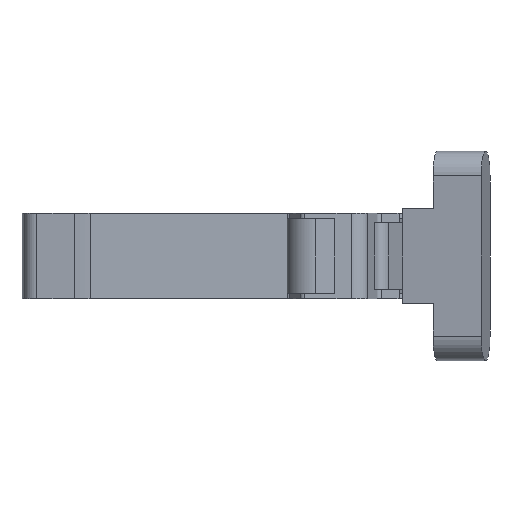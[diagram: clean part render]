
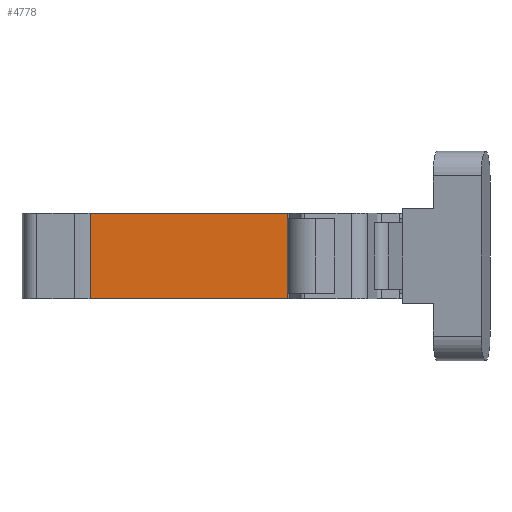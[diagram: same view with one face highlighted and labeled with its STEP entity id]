
A CAD part, front view. The second image highlights one B-rep face of the part: STEP entity #4778.
In plain terms, the highlighted planar face has unit normal (0, -1, 0).
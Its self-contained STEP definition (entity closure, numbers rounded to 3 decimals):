
#79 = LINE ( 'NONE', #7421, #6413 ) ;
#130 = LINE ( 'NONE', #6957, #7419 ) ;
#131 = ORIENTED_EDGE ( 'NONE', *, *, #2887, .F. ) ;
#606 = AXIS2_PLACEMENT_3D ( 'NONE', #7297, #1778, #6483 ) ;
#1046 = ORIENTED_EDGE ( 'NONE', *, *, #6047, .T. ) ;
#1110 = CARTESIAN_POINT ( 'NONE',  ( -20.801, -9.3, -7.6 ) ) ;
#1134 = VECTOR ( 'NONE', #3582, 1000. ) ;
#1311 = CARTESIAN_POINT ( 'NONE',  ( -53.648, -9.3, -7.4 ) ) ;
#1407 = CARTESIAN_POINT ( 'NONE',  ( -60., -9.3, 8.5 ) ) ;
#1554 = DIRECTION ( 'NONE',  ( 1., 0., 0. ) ) ;
#1573 = LINE ( 'NONE', #2654, #2536 ) ;
#1778 = DIRECTION ( 'NONE',  ( 0., 1., 0. ) ) ;
#1863 = VERTEX_POINT ( 'NONE', #2246 ) ;
#2241 = ORIENTED_EDGE ( 'NONE', *, *, #3152, .T. ) ;
#2246 = CARTESIAN_POINT ( 'NONE',  ( -20.865, -9.3, 7.4 ) ) ;
#2379 = FACE_OUTER_BOUND ( 'NONE', #2574, .T. ) ;
#2504 = VERTEX_POINT ( 'NONE', #1407 ) ;
#2536 = VECTOR ( 'NONE', #2700, 1000. ) ;
#2574 = EDGE_LOOP ( 'NONE', ( #6471, #3363, #5706, #2241, #131, #1046, #3886, #3151 ) ) ;
#2613 = EDGE_CURVE ( 'NONE', #4107, #3921, #7242, .T. ) ;
#2654 = CARTESIAN_POINT ( 'NONE',  ( -53.648, -9.3, 8.5 ) ) ;
#2700 = DIRECTION ( 'NONE',  ( -1., 0., 0. ) ) ;
#2868 = VERTEX_POINT ( 'NONE', #5300 ) ;
#2879 = DIRECTION ( 'NONE',  ( 0., 0., -1. ) ) ;
#2887 = EDGE_CURVE ( 'NONE', #5367, #2504, #6946, .T. ) ;
#3151 = ORIENTED_EDGE ( 'NONE', *, *, #5421, .F. ) ;
#3152 = EDGE_CURVE ( 'NONE', #2868, #2504, #1573, .T. ) ;
#3166 = DIRECTION ( 'NONE',  ( 1., 0., 0. ) ) ;
#3227 = CARTESIAN_POINT ( 'NONE',  ( -20.801, -9.3, -7.4 ) ) ;
#3316 = VERTEX_POINT ( 'NONE', #6281 ) ;
#3363 = ORIENTED_EDGE ( 'NONE', *, *, #3734, .T. ) ;
#3578 = CARTESIAN_POINT ( 'NONE',  ( -60., -9.3, -8.5 ) ) ;
#3582 = DIRECTION ( 'NONE',  ( 0., 0., 1. ) ) ;
#3734 = EDGE_CURVE ( 'NONE', #1863, #3316, #7707, .T. ) ;
#3886 = ORIENTED_EDGE ( 'NONE', *, *, #2613, .T. ) ;
#3921 = VERTEX_POINT ( 'NONE', #3227 ) ;
#4049 = CARTESIAN_POINT ( 'NONE',  ( -60., -9.3, -24.5 ) ) ;
#4085 = DIRECTION ( 'NONE',  ( 1., 0., 0. ) ) ;
#4107 = VERTEX_POINT ( 'NONE', #7967 ) ;
#4207 = VECTOR ( 'NONE', #6507, 1000. ) ;
#4778 = ADVANCED_FACE ( 'NONE', ( #2379 ), #4847, .F. ) ;
#4847 = PLANE ( 'NONE',  #606 ) ;
#5070 = LINE ( 'NONE', #1311, #7164 ) ;
#5300 = CARTESIAN_POINT ( 'NONE',  ( -20.801, -9.3, 8.5 ) ) ;
#5367 = VERTEX_POINT ( 'NONE', #3578 ) ;
#5421 = EDGE_CURVE ( 'NONE', #6197, #3921, #5070, .T. ) ;
#5558 = EDGE_CURVE ( 'NONE', #3316, #2868, #79, .T. ) ;
#5672 = VECTOR ( 'NONE', #2879, 1000. ) ;
#5706 = ORIENTED_EDGE ( 'NONE', *, *, #5558, .T. ) ;
#6026 = VECTOR ( 'NONE', #4085, 1000. ) ;
#6047 = EDGE_CURVE ( 'NONE', #5367, #4107, #130, .T. ) ;
#6150 = DIRECTION ( 'NONE',  ( 0., 0., 1. ) ) ;
#6197 = VERTEX_POINT ( 'NONE', #7867 ) ;
#6281 = CARTESIAN_POINT ( 'NONE',  ( -20.801, -9.3, 7.4 ) ) ;
#6413 = VECTOR ( 'NONE', #6150, 1000. ) ;
#6471 = ORIENTED_EDGE ( 'NONE', *, *, #7682, .F. ) ;
#6483 = DIRECTION ( 'NONE',  ( -1., 0., 0. ) ) ;
#6507 = DIRECTION ( 'NONE',  ( 0., 0., 1. ) ) ;
#6638 = LINE ( 'NONE', #7238, #5672 ) ;
#6946 = LINE ( 'NONE', #4049, #4207 ) ;
#6957 = CARTESIAN_POINT ( 'NONE',  ( 1.143, -9.3, -8.5 ) ) ;
#7164 = VECTOR ( 'NONE', #3166, 1000. ) ;
#7238 = CARTESIAN_POINT ( 'NONE',  ( -20.865, -9.3, -14.6 ) ) ;
#7242 = LINE ( 'NONE', #1110, #1134 ) ;
#7297 = CARTESIAN_POINT ( 'NONE',  ( -53.648, -9.3, -13.3 ) ) ;
#7419 = VECTOR ( 'NONE', #1554, 1000. ) ;
#7421 = CARTESIAN_POINT ( 'NONE',  ( -20.801, -9.3, -7.6 ) ) ;
#7682 = EDGE_CURVE ( 'NONE', #1863, #6197, #6638, .T. ) ;
#7707 = LINE ( 'NONE', #7743, #6026 ) ;
#7743 = CARTESIAN_POINT ( 'NONE',  ( -53.648, -9.3, 7.4 ) ) ;
#7867 = CARTESIAN_POINT ( 'NONE',  ( -20.865, -9.3, -7.4 ) ) ;
#7967 = CARTESIAN_POINT ( 'NONE',  ( -20.801, -9.3, -8.5 ) ) ;
